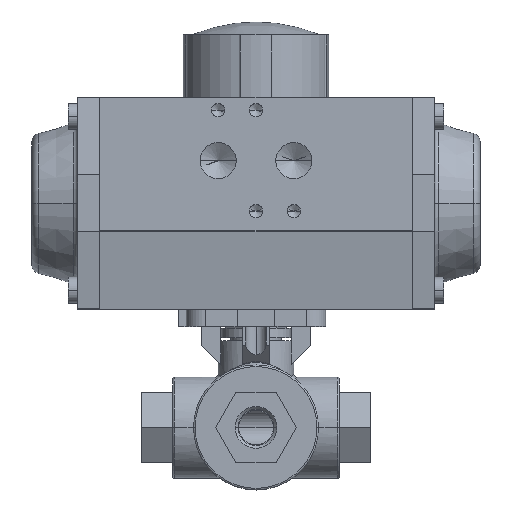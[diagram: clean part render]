
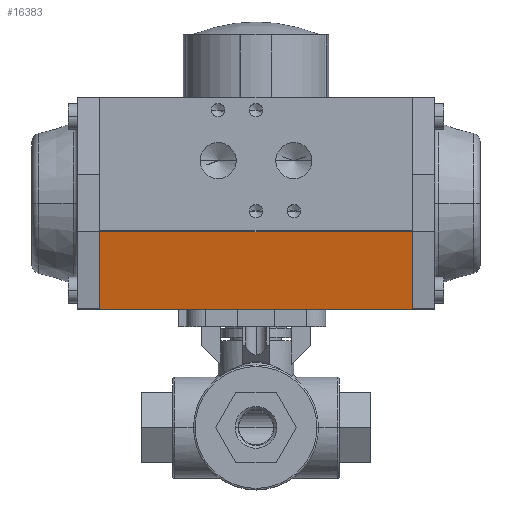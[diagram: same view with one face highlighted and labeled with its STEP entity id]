
A CAD part, top view. The second image highlights one B-rep face of the part: STEP entity #16383.
In plain terms, the highlighted planar face has unit normal (0, -0.161, 0.987) as drawn and (0.987, -0.161, 0) by its records, which use the part's own axes.
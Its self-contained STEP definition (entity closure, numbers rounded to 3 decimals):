
#259 = DIRECTION ( 'NONE',  ( 0.161, 0.987, 0. ) ) ;
#298 = ORIENTED_EDGE ( 'NONE', *, *, #6670, .T. ) ;
#520 = CARTESIAN_POINT ( 'NONE',  ( 30., -9., 49.5 ) ) ;
#2349 = ORIENTED_EDGE ( 'NONE', *, *, #4634, .T. ) ;
#2722 = ORIENTED_EDGE ( 'NONE', *, *, #15744, .F. ) ;
#3738 = VERTEX_POINT ( 'NONE', #14077 ) ;
#4383 = LINE ( 'NONE', #12088, #13953 ) ;
#4634 = EDGE_CURVE ( 'NONE', #9391, #8827, #5201, .T. ) ;
#5201 = LINE ( 'NONE', #8123, #14536 ) ;
#5308 = LINE ( 'NONE', #5936, #9780 ) ;
#5502 = AXIS2_PLACEMENT_3D ( 'NONE', #17145, #7291, #259 ) ;
#5547 = DIRECTION ( 'NONE',  ( 0.161, 0.987, 0. ) ) ;
#5894 = LINE ( 'NONE', #11240, #11464 ) ;
#5936 = CARTESIAN_POINT ( 'NONE',  ( 26., -33.5, -49.5 ) ) ;
#6670 = EDGE_CURVE ( 'NONE', #11415, #9391, #5308, .T. ) ;
#7054 = EDGE_CURVE ( 'NONE', #3738, #8827, #5894, .T. ) ;
#7291 = DIRECTION ( 'NONE',  ( 0.987, -0.161, 0. ) ) ;
#8123 = CARTESIAN_POINT ( 'NONE',  ( 30., -9., -49.5 ) ) ;
#8163 = CARTESIAN_POINT ( 'NONE',  ( 26., -33.5, -49.5 ) ) ;
#8353 = FACE_OUTER_BOUND ( 'NONE', #13325, .T. ) ;
#8611 = PLANE ( 'NONE',  #5502 ) ;
#8827 = VERTEX_POINT ( 'NONE', #520 ) ;
#9035 = ORIENTED_EDGE ( 'NONE', *, *, #7054, .F. ) ;
#9391 = VERTEX_POINT ( 'NONE', #15155 ) ;
#9780 = VECTOR ( 'NONE', #11797, 1000. ) ;
#11240 = CARTESIAN_POINT ( 'NONE',  ( 26., -33.5, 49.5 ) ) ;
#11415 = VERTEX_POINT ( 'NONE', #8163 ) ;
#11464 = VECTOR ( 'NONE', #5547, 1000. ) ;
#11797 = DIRECTION ( 'NONE',  ( 0.161, 0.987, 0. ) ) ;
#12088 = CARTESIAN_POINT ( 'NONE',  ( 26., -33.5, -49.5 ) ) ;
#13325 = EDGE_LOOP ( 'NONE', ( #2349, #9035, #2722, #298 ) ) ;
#13453 = DIRECTION ( 'NONE',  ( 0., 0., 1. ) ) ;
#13953 = VECTOR ( 'NONE', #13453, 1000. ) ;
#14077 = CARTESIAN_POINT ( 'NONE',  ( 26., -33.5, 49.5 ) ) ;
#14263 = DIRECTION ( 'NONE',  ( 0., 0., 1. ) ) ;
#14536 = VECTOR ( 'NONE', #14263, 1000. ) ;
#15155 = CARTESIAN_POINT ( 'NONE',  ( 30., -9., -49.5 ) ) ;
#15744 = EDGE_CURVE ( 'NONE', #11415, #3738, #4383, .T. ) ;
#16383 = ADVANCED_FACE ( 'NONE', ( #8353 ), #8611, .T. ) ;
#17145 = CARTESIAN_POINT ( 'NONE',  ( 26., -33.5, -49.5 ) ) ;
